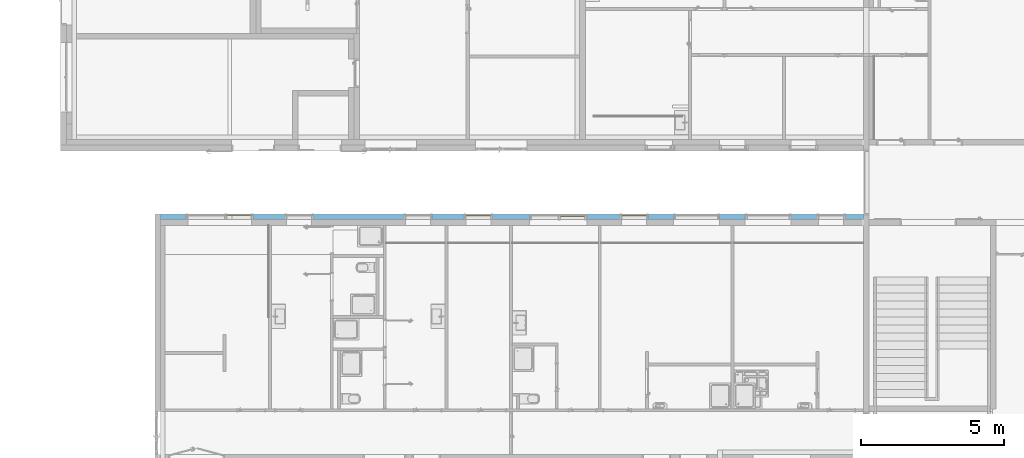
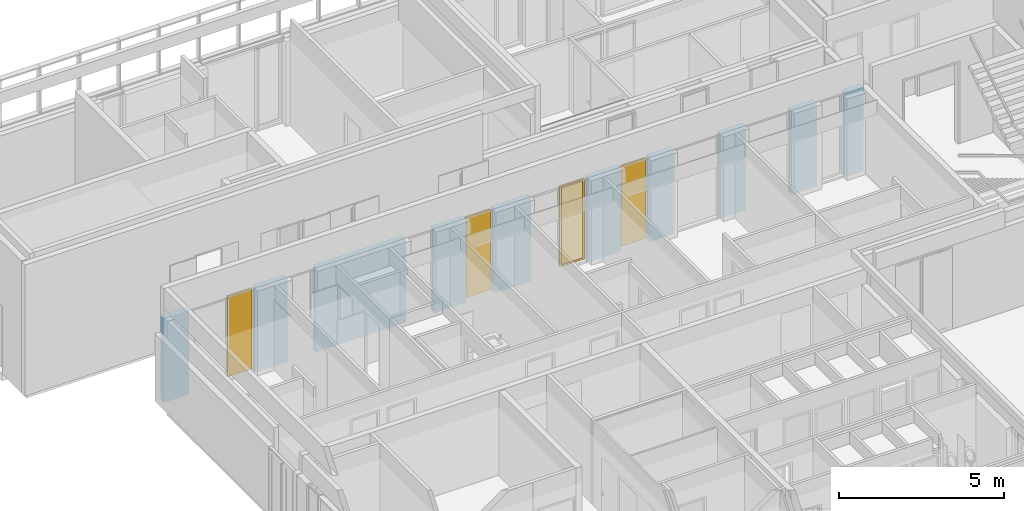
# One storey, part 208 of 240: 4 windows, 16 openings, plus 1 element that does not belong to this part.
"""IFC2X3 building model written with IfcOpenShell, lengths in centimetres."""

from ifc_helpers import new_model, entity, si_unit, converted_unit, derived_unit, direction, frame, frame_2d, origin, place, context, subcontext, project, spatial, rectangle, extrude, faceted_brep, source, transform, mapped, material, material_list, layer, layer_set, layer_usage, type_object, type_shapes, element, fill, save


model = new_model("IFC2X3")

# Units and contexts
model_context = context("Model", 3, precision=0.001, world=origin(), true_north=direction((6.12303176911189e-17, 1.0)))
body_context = subcontext(model_context, "Body", "Model", "MODEL_VIEW")
ifc_project = project(units=[si_unit("LENGTHUNIT", "METRE", prefix="CENTI"), si_unit("AREAUNIT", "SQUARE_METRE"), si_unit("VOLUMEUNIT", "CUBIC_METRE"), converted_unit("PLANEANGLEUNIT", "DEGREE", entity("IfcRatioMeasure", 0.0174532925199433), si_unit("PLANEANGLEUNIT", "RADIAN"), dimensions=[0, 0, 0, 0, 0, 0, 0]), si_unit("MASSUNIT", "GRAM", prefix="KILO"), derived_unit("MASSDENSITYUNIT", [(si_unit("MASSUNIT", "GRAM", prefix="KILO"), 1), (si_unit("LENGTHUNIT", "METRE"), -3)]), si_unit("TIMEUNIT", "SECOND"), si_unit("FREQUENCYUNIT", "HERTZ"), si_unit("THERMODYNAMICTEMPERATUREUNIT", "DEGREE_CELSIUS"), derived_unit("THERMALTRANSMITTANCEUNIT", [(si_unit("MASSUNIT", "GRAM", prefix="KILO"), 1), (si_unit("THERMODYNAMICTEMPERATUREUNIT", "KELVIN"), -1), (si_unit("TIMEUNIT", "SECOND"), -3)]), derived_unit("VOLUMETRICFLOWRATEUNIT", [(si_unit("LENGTHUNIT", "METRE"), 3), (si_unit("TIMEUNIT", "SECOND"), -1)]), si_unit("ELECTRICCURRENTUNIT", "AMPERE"), si_unit("ELECTRICVOLTAGEUNIT", "VOLT"), si_unit("POWERUNIT", "WATT"), si_unit("FORCEUNIT", "NEWTON", prefix="KILO"), si_unit("ILLUMINANCEUNIT", "LUX"), si_unit("LUMINOUSFLUXUNIT", "LUMEN"), si_unit("LUMINOUSINTENSITYUNIT", "CANDELA"), derived_unit("USERDEFINED", [(si_unit("MASSUNIT", "GRAM", prefix="KILO"), -1), (si_unit("LENGTHUNIT", "METRE"), -2), (si_unit("TIMEUNIT", "SECOND"), 3), (si_unit("LUMINOUSFLUXUNIT", "LUMEN"), 1)]), derived_unit("LINEARVELOCITYUNIT", [(si_unit("LENGTHUNIT", "METRE"), 1), (si_unit("TIMEUNIT", "SECOND"), -1)]), si_unit("PRESSUREUNIT", "PASCAL"), derived_unit("USERDEFINED", [(si_unit("LENGTHUNIT", "METRE"), -2), (si_unit("MASSUNIT", "GRAM", prefix="KILO"), 1), (si_unit("TIMEUNIT", "SECOND"), -2)])], contexts=[model_context])

# Site, building, storey
site_placement = place(None, frame((-2781.94577612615, 7442.24238424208, 0.0)))
site = spatial("IfcSite", under=ifc_project, at=site_placement, Name="Default", CompositionType="ELEMENT")
building_placement = place(site_placement, origin())
building = spatial("IfcBuilding", under=site, at=building_placement, CompositionType="ELEMENT")
storey_placement = place(building_placement, origin())
storey = spatial("IfcBuildingStorey", under=building, at=storey_placement, Name="N00 - COO", CompositionType="ELEMENT", Elevation=0.0)

# Wall, openings, windows
ifc_material_1 = material(Name="Aluminium bardage")
ifc_layer_1 = layer(ifc_material_1, 0.5)
ifc_material_2 = material(Name="01 - Lame d'air")
ifc_layer_2 = layer(ifc_material_2, 1.5)
ifc_material_3 = material(Name="00 - Isolant")
ifc_layer_3 = layer(ifc_material_3, 18.0)
ifc_layer_set = layer_set([ifc_layer_1, ifc_layer_2, ifc_layer_3], Name="Mur de base:04 - Parement - ITE 18cm + vide 2cm")
ifc_layer_usage = layer_usage(ifc_layer_set, "AXIS2", "NEGATIVE", 10.0)
wall_type = type_object("IfcWallType", Name="Mur de base:04 - Parement - ITE 18cm + vide 2cm", PredefinedType="STANDARD", material=ifc_layer_set)
wall_placement = place(building_placement, frame((-10881.6130476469, -1080.0, 0.0)))
wall = element("IfcWallStandardCase", 1, at=wall_placement, inside=storey, type_object=wall_type, material=ifc_layer_usage, Name="Mur de base:04 - Parement - ITE 18cm + vide 2cm", ObjectType="Mur de base:04 - Parement - ITE 18cm + vide 2cm", context=body_context, shape_type="SweptSolid", body=[
    extrude(rectangle(XDim=2452.0, YDim=20.0000000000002, at=frame_2d((1226.0, 6.83897383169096e-14), x_axis=(-1.0, 0.0))), origin(), (0.0, 0.0, 1.0), 311.0),
])
opening_1_placement = place(wall_placement, origin())
element("IfcOpeningElement", 2, at=opening_1_placement, cuts=wall, Name="Mur de base:04 - Parement - ITE 18cm + vide 2cm", ObjectType="Opening", context=body_context, shape_type="SweptSolid", body=[
    extrude(rectangle(XDim=310.999999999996, YDim=235.0, at=frame_2d((8.66862137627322e-13, 0.0), x_axis=(0.0, 1.0))), frame((206.231919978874, -25.2399999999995, 155.499999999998), z_axis=(0.0, 1.0, 0.0), x_axis=(-1.0, 0.0, 0.0)), (0.0, 0.0, 1.0), 50.48),
])
opening_2_placement = place(wall_placement, origin())
element("IfcOpeningElement", 3, at=opening_2_placement, cuts=wall, Name="Mur de base:04 - Parement - ITE 18cm + vide 2cm", ObjectType="Opening", context=body_context, shape_type="SweptSolid", body=[
    extrude(rectangle(XDim=312.5, YDim=160.0, at=frame_2d((-8.66862137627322e-13, 0.0), x_axis=(0.0, 1.0))), frame((2119.61316997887, -25.2399999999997, 156.25), z_axis=(0.0, 1.0, 0.0), x_axis=(-1.0, 0.0, 0.0)), (0.0, 0.0, 1.0), 50.48),
])
opening_3_placement = place(wall_placement, origin())
element("IfcOpeningElement", 4, at=opening_3_placement, cuts=wall, Name="Mur de base:04 - Parement - ITE 18cm + vide 2cm", ObjectType="Opening", context=body_context, shape_type="SweptSolid", body=[
    extrude(rectangle(XDim=312.5, YDim=160.0, at=frame_2d((-8.66862137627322e-13, 0.0), x_axis=(0.0, 1.0))), frame((1869.61316997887, -25.2399999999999, 156.25), z_axis=(0.0, 1.0, 0.0), x_axis=(-1.0, 0.0, 0.0)), (0.0, 0.0, 1.0), 50.48),
])
opening_4_placement = place(wall_placement, origin())
element("IfcOpeningElement", 5, at=opening_4_placement, cuts=wall, Name="Mur de base:04 - Parement - ITE 18cm + vide 2cm", ObjectType="Opening", context=body_context, shape_type="SweptSolid", body=[
    extrude(rectangle(XDim=312.5, YDim=200.000000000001, at=frame_2d((-8.66862137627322e-13, 0.0), x_axis=(0.0, 1.0))), frame((1387.11316997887, -25.2399999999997, 156.25), z_axis=(0.0, 1.0, 0.0), x_axis=(-1.0, 0.0, 0.0)), (0.0, 0.0, 1.0), 50.48),
])
opening_5_placement = place(wall_placement, origin())
element("IfcOpeningElement", 6, at=opening_5_placement, cuts=wall, Name="Mur de base:04 - Parement - ITE 18cm + vide 2cm", ObjectType="Opening", context=body_context, shape_type="SweptSolid", body=[
    extrude(rectangle(XDim=312.5, YDim=99.9999999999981, at=frame_2d((0.0, 0.0), x_axis=(0.0, 1.0))), frame((2339.61316997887, -25.2399999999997, 156.25), z_axis=(0.0, 1.0, 0.0), x_axis=(-1.0, 0.0, 0.0)), (0.0, 0.0, 1.0), 50.48),
])
opening_6_placement = place(wall_placement, origin())
element("IfcOpeningElement", 7, at=opening_6_placement, cuts=wall, Name="Mur de base:04 - Parement - ITE 18cm + vide 2cm", ObjectType="Opening", context=body_context, shape_type="SweptSolid", body=[
    extrude(rectangle(XDim=312.5, YDim=99.9999999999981, at=frame_2d((0.0, 0.0), x_axis=(0.0, 1.0))), frame((1652.11316997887, -25.2399999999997, 156.25), z_axis=(0.0, 1.0, 0.0), x_axis=(-1.0, 0.0, 0.0)), (0.0, 0.0, 1.0), 50.48),
])
opening_7_placement = place(wall_placement, origin())
element("IfcOpeningElement", 8, at=opening_7_placement, cuts=wall, Name="Mur de base:04 - Parement - ITE 18cm + vide 2cm", ObjectType="Opening", context=body_context, shape_type="SweptSolid", body=[
    extrude(rectangle(XDim=312.5, YDim=99.9999999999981, at=frame_2d((0.0, 0.0), x_axis=(0.0, 1.0))), frame((1108.61316997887, -25.2399999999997, 156.25), z_axis=(0.0, 1.0, 0.0), x_axis=(-1.0, 0.0, 0.0)), (0.0, 0.0, 1.0), 50.48),
])
opening_8_placement = place(wall_placement, origin())
element("IfcOpeningElement", 9, at=opening_8_placement, cuts=wall, Name="Mur de base:04 - Parement - ITE 18cm + vide 2cm", ObjectType="Opening", context=body_context, shape_type="SweptSolid", body=[
    extrude(rectangle(XDim=312.5, YDim=99.9999999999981, at=frame_2d((0.0, 0.0), x_axis=(0.0, 1.0))), frame((898.61316997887, -25.2399999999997, 156.25), z_axis=(0.0, 1.0, 0.0), x_axis=(-1.0, 0.0, 0.0)), (0.0, 0.0, 1.0), 50.48),
])
opening_9_placement = place(wall_placement, origin())
element("IfcOpeningElement", 10, at=opening_9_placement, cuts=wall, Name="Mur de base:04 - Parement - ITE 18cm + vide 2cm", ObjectType="Opening", context=body_context, shape_type="SweptSolid", body=[
    extrude(rectangle(XDim=312.5, YDim=99.9999999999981, at=frame_2d((0.0, 0.0), x_axis=(0.0, 1.0))), frame((483.613169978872, -25.2399999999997, 156.25), z_axis=(0.0, 1.0, 0.0), x_axis=(-1.0, 0.0, 0.0)), (0.0, 0.0, 1.0), 50.48),
])
opening_10_placement = place(wall_placement, frame((230.11316997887, -10.0, 6.5)))
opening_10 = element("IfcOpeningElement", 11, at=opening_10_placement, cuts=wall, Name="Ouvrant vitré:Ouvrant vitré (93cm) RDC:1", ObjectType="Opening", context=body_context, shape_type="SweptSolid", body=[
    extrude(rectangle(XDim=299.5, YDim=87.0000000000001, at=frame_2d((149.75, 43.5), x_axis=(1.0, 0.0))), frame((0.0, 0.0, 0.0), z_axis=(0.0, 1.0, 0.0), x_axis=(0.0, 0.0, 1.0)), (0.0, 0.0, 1.0), 20.0),
])
opening_11_placement = place(wall_placement, frame((440.113169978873, -10.0, 6.5)))
element("IfcOpeningElement", 12, at=opening_11_placement, cuts=wall, Name="Ouvrant vitré:Ouvrant vitré (93cm) RDC:1", ObjectType="Opening", context=body_context, shape_type="SweptSolid", body=[
    extrude(rectangle(XDim=299.5, YDim=87.0000000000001, at=frame_2d((149.75, 43.5), x_axis=(1.0, 0.0))), frame((0.0, 0.0, 0.0), z_axis=(0.0, 1.0, 0.0), x_axis=(0.0, 0.0, 1.0)), (0.0, 0.0, 1.0), 20.0),
])
opening_12_placement = place(wall_placement, frame((855.11316997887, -10.0, 6.5)))
element("IfcOpeningElement", 13, at=opening_12_placement, cuts=wall, Name="Ouvrant vitré:Ouvrant vitré (93cm) RDC:1", ObjectType="Opening", context=body_context, shape_type="SweptSolid", body=[
    extrude(rectangle(XDim=299.5, YDim=87.0000000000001, at=frame_2d((149.75, 43.5000000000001), x_axis=(1.0, 0.0))), frame((0.0, 0.0, 0.0), z_axis=(0.0, 1.0, 0.0), x_axis=(0.0, 0.0, 1.0)), (0.0, 0.0, 1.0), 20.0),
])
opening_13_placement = place(wall_placement, frame((1065.11316997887, -10.0, 6.5)))
opening_13 = element("IfcOpeningElement", 14, at=opening_13_placement, cuts=wall, Name="Ouvrant vitré:Ouvrant vitré (93cm) RDC:1", ObjectType="Opening", context=body_context, shape_type="SweptSolid", body=[
    extrude(rectangle(XDim=299.5, YDim=87.0000000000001, at=frame_2d((149.75, 43.5000000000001), x_axis=(1.0, 0.0))), frame((0.0, 0.0, 0.0), z_axis=(0.0, 1.0, 0.0), x_axis=(0.0, 0.0, 1.0)), (0.0, 0.0, 1.0), 20.0),
])
opening_14_placement = place(wall_placement, frame((1393.61316997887, -10.0, 6.5)))
opening_14 = element("IfcOpeningElement", 15, at=opening_14_placement, cuts=wall, Name="Ouvrant vitré:Ouvrant vitré (93cm) RDC:1", ObjectType="Opening", context=body_context, shape_type="SweptSolid", body=[
    extrude(rectangle(XDim=299.5, YDim=87.0000000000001, at=frame_2d((149.75, 43.5000000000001), x_axis=(1.0, 0.0))), frame((0.0, 0.0, 0.0), z_axis=(0.0, 1.0, 0.0), x_axis=(0.0, 0.0, 1.0)), (0.0, 0.0, 1.0), 20.0),
])
opening_15_placement = place(wall_placement, frame((1608.61316997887, -10.0, 6.5)))
opening_15 = element("IfcOpeningElement", 16, at=opening_15_placement, cuts=wall, Name="Ouvrant vitré:Ouvrant vitré (93cm) RDC:1", ObjectType="Opening", context=body_context, shape_type="SweptSolid", body=[
    extrude(rectangle(XDim=299.5, YDim=87.0000000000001, at=frame_2d((149.75, 43.5000000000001), x_axis=(1.0, 0.0))), frame((0.0, 0.0, 0.0), z_axis=(0.0, 1.0, 0.0), x_axis=(0.0, 0.0, 1.0)), (0.0, 0.0, 1.0), 20.0),
])
opening_16_placement = place(wall_placement, frame((2296.11316997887, -10.0, 6.5)))
element("IfcOpeningElement", 17, at=opening_16_placement, cuts=wall, Name="Ouvrant vitré:Ouvrant vitré (93cm) RDC:1", ObjectType="Opening", context=body_context, shape_type="SweptSolid", body=[
    extrude(rectangle(XDim=299.5, YDim=87.0000000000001, at=frame_2d((149.75, 43.5000000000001), x_axis=(1.0, 0.0))), frame((0.0, 0.0, 0.0), z_axis=(0.0, 1.0, 0.0), x_axis=(0.0, 0.0, 1.0)), (0.0, 0.0, 1.0), 20.0),
])
ifc_material_4 = material(Name="Verre")
ifc_material_5 = material(Name="Aluminium")
ifc_material_list_1 = material_list([ifc_material_4, ifc_material_5])
ifc_material_list_2 = material_list([ifc_material_4, ifc_material_5])
window_style_1 = type_object("IfcWindowStyle", Name="Ouvrant vitré (93cm) RDC", ConstructionType="NOTDEFINED", OperationType="NOTDEFINED", ParameterTakesPrecedence=False, Sizeable=False, material=ifc_material_list_2)
shared_shape_1 = source(origin(), body_context, "Body", "Brep", [
    faceted_brep([(80.4999999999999, 15.2499999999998, 293.0), (80.4999999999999, 15.2499999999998, 6.49999999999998), (6.5000000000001, 15.2500000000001, 6.49999999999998), (6.5000000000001, 15.2500000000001, 293.0), (80.4999999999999, 13.2499999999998, 293.0), (80.4999999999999, 13.2499999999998, 6.49999999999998), (6.50000000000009, 13.2500000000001, 6.49999999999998), (6.50000000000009, 13.2500000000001, 293.0)], [[[0, 1, 2, 3]], [[1, 0, 4, 5]], [[2, 1, 5, 6]], [[3, 2, 6, 7]], [[4, 7, 6, 5]], [[0, 3, 7, 4]]]),
    faceted_brep([(83.5, 16.5494664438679, 296.0), (83.5, 16.5494664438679, 3.50000000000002), (3.50000000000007, 16.5494664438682, 3.50000000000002), (3.50000000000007, 16.5494664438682, 296.0), (80.5, 16.5494664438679, 293.0), (6.50000000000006, 16.5494664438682, 293.0), (6.50000000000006, 16.5494664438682, 6.50000000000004), (80.5, 16.5494664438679, 6.50000000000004), (83.5, 13.0494664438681, 296.0), (83.5, 13.0494664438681, 3.50000000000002), (3.50000000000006, 13.0494664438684, 3.50000000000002), (3.50000000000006, 13.0494664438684, 296.0), (6.50000000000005, 13.0494664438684, 293.0), (6.50000000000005, 13.0494664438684, 6.50000000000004), (80.5, 13.0494664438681, 6.50000000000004), (80.5, 13.0494664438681, 293.0)], [[[0, 1, 2, 3], [4, 5, 6, 7]], [[1, 0, 8, 9]], [[2, 1, 9, 10]], [[3, 2, 10, 11]], [[6, 5, 12, 13]], [[7, 6, 13, 14]], [[4, 7, 14, 15]], [[15, 14, 13, 12], [8, 11, 10, 9]], [[0, 3, 11, 8]], [[5, 4, 15, 12]]], outer=[[True, False], [True], [True], [True], [True], [True], [True], [False, True], [True], [True]]),
    faceted_brep([(82.0, 16.5494664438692, 294.5), (82.0, 18.0494664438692, 294.5), (82.0, 18.0494664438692, 5.0), (82.0, 16.5494664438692, 5.0), (87.0, 18.0494664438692, 0.0), (0.0, 18.0494664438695, 0.0), (0.0, 18.0494664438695, 299.5), (87.0, 18.0494664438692, 299.5), (5.0, 18.0494664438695, 294.5), (5.0, 18.0494664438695, 5.0), (5.0, 16.5494664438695, 5.0), (5.0, 16.5494664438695, 294.5), (83.5, 16.5494664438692, 296.0), (3.50000000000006, 16.5494664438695, 296.0), (3.50000000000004, 16.5494664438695, 3.50000000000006), (83.5, 16.5494664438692, 3.50000000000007), (83.5, 13.0494664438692, 296.0), (83.5, 13.0494664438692, 3.50000000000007), (3.50000000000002, 13.0494664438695, 3.50000000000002), (3.50000000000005, 13.0494664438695, 296.0), (87.0, 13.0494664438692, 299.5), (0.0, 13.0494664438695, 299.5), (0.0, 13.0494664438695, 0.0), (87.0, 13.0494664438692, 0.0)], [[[0, 1, 2, 3]], [[4, 5, 6, 7], [1, 8, 9, 2]], [[3, 2, 9, 10]], [[3, 10, 11, 0], [12, 13, 14, 15]], [[16, 12, 15, 17]], [[17, 15, 14, 18]], [[17, 18, 19, 16], [20, 21, 22, 23]], [[7, 20, 23, 4]], [[4, 23, 22, 5]], [[10, 9, 8, 11]], [[18, 14, 13, 19]], [[5, 22, 21, 6]], [[11, 8, 1, 0]], [[19, 13, 12, 16]], [[6, 21, 20, 7]]], outer=[[True], [True, False], [True], [False, True], [True], [True], [False, True], [True], [True], [True], [True], [True], [True], [True], [True]]),
])
type_shapes(window_style_1, [shared_shape_1])
window_1_placement = place(opening_15_placement, origin())
window_1 = element("IfcWindow", 18, at=window_1_placement, inside=storey, type_object=window_style_1, material=ifc_material_list_1, Name="Ouvrant vitré:Ouvrant vitré (93cm) RDC", ObjectType="Ouvrant vitré:Ouvrant vitré (93cm) RDC", OverallHeight=299.5, OverallWidth=86.9999999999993, context=body_context, shape_type="MappedRepresentation", body=[
    mapped(shared_shape_1, transform((0.0, 0.0, 0.0), scale=1.0)),
])
fill(opening_15, window_1)
ifc_material_list_3 = material_list([ifc_material_4, ifc_material_5])
ifc_material_list_4 = material_list([ifc_material_4, ifc_material_5])
window_style_2 = type_object("IfcWindowStyle", Name="Ouvrant vitré (93cm) RDC", ConstructionType="NOTDEFINED", OperationType="NOTDEFINED", ParameterTakesPrecedence=False, Sizeable=False, material=ifc_material_list_4)
shared_shape_2 = source(origin(), body_context, "Body", "Brep", [
    faceted_brep([(80.4999999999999, 15.2499999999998, 293.0), (80.4999999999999, 15.2499999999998, 6.49999999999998), (6.5000000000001, 15.2500000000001, 6.49999999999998), (6.5000000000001, 15.2500000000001, 293.0), (80.4999999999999, 13.2499999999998, 293.0), (80.4999999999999, 13.2499999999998, 6.49999999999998), (6.50000000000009, 13.2500000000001, 6.49999999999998), (6.50000000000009, 13.2500000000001, 293.0)], [[[0, 1, 2, 3]], [[1, 0, 4, 5]], [[2, 1, 5, 6]], [[3, 2, 6, 7]], [[4, 7, 6, 5]], [[0, 3, 7, 4]]]),
    faceted_brep([(83.5, 16.7382143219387, 296.0), (83.5, 16.7382143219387, 3.50000000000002), (3.50000000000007, 16.738214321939, 3.50000000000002), (3.50000000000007, 16.738214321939, 296.0), (80.5, 16.7382143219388, 293.0), (6.50000000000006, 16.738214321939, 293.0), (6.50000000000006, 16.738214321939, 6.50000000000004), (80.5, 16.7382143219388, 6.50000000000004), (83.5, 13.2382143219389, 296.0), (83.5, 13.2382143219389, 3.50000000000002), (3.50000000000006, 13.2382143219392, 3.50000000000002), (3.50000000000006, 13.2382143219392, 296.0), (6.50000000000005, 13.2382143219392, 293.0), (6.50000000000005, 13.2382143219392, 6.50000000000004), (80.5, 13.2382143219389, 6.50000000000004), (80.5, 13.2382143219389, 293.0)], [[[0, 1, 2, 3], [4, 5, 6, 7]], [[1, 0, 8, 9]], [[2, 1, 9, 10]], [[3, 2, 10, 11]], [[6, 5, 12, 13]], [[7, 6, 13, 14]], [[4, 7, 14, 15]], [[15, 14, 13, 12], [8, 11, 10, 9]], [[0, 3, 11, 8]], [[5, 4, 15, 12]]], outer=[[True, False], [True], [True], [True], [True], [True], [True], [False, True], [True], [True]]),
    faceted_brep([(82.0, 16.73821432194, 294.5), (82.0, 18.2382143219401, 294.5), (82.0, 18.2382143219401, 5.0), (82.0, 16.73821432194, 5.0), (87.0, 18.23821432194, 0.0), (0.0, 18.2382143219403, 0.0), (0.0, 18.2382143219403, 299.5), (87.0, 18.23821432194, 299.5), (5.0, 18.2382143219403, 294.5), (5.0, 18.2382143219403, 5.0), (5.0, 16.7382143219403, 5.0), (5.0, 16.7382143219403, 294.5), (83.5, 16.73821432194, 296.0), (3.50000000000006, 16.7382143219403, 296.0), (3.50000000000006, 16.7382143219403, 3.50000000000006), (83.5, 16.73821432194, 3.50000000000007), (83.5, 13.2382143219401, 296.0), (83.5, 13.2382143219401, 3.50000000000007), (3.50000000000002, 13.2382143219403, 3.50000000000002), (3.50000000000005, 13.2382143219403, 296.0), (87.0, 13.23821432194, 299.5), (0.0, 13.2382143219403, 299.5), (0.0, 13.2382143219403, 0.0), (87.0, 13.23821432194, 0.0)], [[[0, 1, 2, 3]], [[4, 5, 6, 7], [1, 8, 9, 2]], [[3, 2, 9, 10]], [[3, 10, 11, 0], [12, 13, 14, 15]], [[16, 12, 15, 17]], [[17, 15, 14, 18]], [[17, 18, 19, 16], [20, 21, 22, 23]], [[7, 20, 23, 4]], [[4, 23, 22, 5]], [[10, 9, 8, 11]], [[18, 14, 13, 19]], [[5, 22, 21, 6]], [[11, 8, 1, 0]], [[19, 13, 12, 16]], [[6, 21, 20, 7]]], outer=[[True], [True, False], [True], [False, True], [True], [True], [False, True], [True], [True], [True], [True], [True], [True], [True], [True]]),
])
type_shapes(window_style_2, [shared_shape_2])
window_2_placement = place(opening_13_placement, origin())
window_2 = element("IfcWindow", 19, at=window_2_placement, inside=storey, type_object=window_style_2, material=ifc_material_list_3, Name="Ouvrant vitré:Ouvrant vitré (93cm) RDC", ObjectType="Ouvrant vitré:Ouvrant vitré (93cm) RDC", OverallHeight=299.5, OverallWidth=86.9999999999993, context=body_context, shape_type="MappedRepresentation", body=[
    mapped(shared_shape_2, transform((0.0, 0.0, 0.0), scale=1.0)),
])
fill(opening_13, window_2)
ifc_material_list_5 = material_list([ifc_material_4, ifc_material_5])
ifc_material_list_6 = material_list([ifc_material_4, ifc_material_5])
window_style_3 = type_object("IfcWindowStyle", Name="Ouvrant vitré (93cm) RDC", ConstructionType="NOTDEFINED", OperationType="NOTDEFINED", ParameterTakesPrecedence=False, Sizeable=False, material=ifc_material_list_6)
shared_shape_3 = source(origin(), body_context, "Body", "Brep", [
    faceted_brep([(80.4999999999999, 15.2499999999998, 293.0), (80.4999999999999, 15.2499999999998, 6.49999999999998), (6.5000000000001, 15.2500000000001, 6.49999999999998), (6.5000000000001, 15.2500000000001, 293.0), (80.4999999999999, 13.2499999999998, 293.0), (80.4999999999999, 13.2499999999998, 6.49999999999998), (6.50000000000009, 13.2500000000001, 6.49999999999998), (6.50000000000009, 13.2500000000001, 293.0)], [[[0, 1, 2, 3]], [[1, 0, 4, 5]], [[2, 1, 5, 6]], [[3, 2, 6, 7]], [[4, 7, 6, 5]], [[0, 3, 7, 4]]]),
    faceted_brep([(83.5, 15.2383906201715, 296.0), (83.5, 15.2383906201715, 3.50000000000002), (3.50000000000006, 15.2383906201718, 3.50000000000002), (3.50000000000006, 15.2383906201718, 296.0), (80.5, 15.2383906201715, 293.0), (6.50000000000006, 15.2383906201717, 293.0), (6.50000000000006, 15.2383906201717, 6.50000000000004), (80.5, 15.2383906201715, 6.50000000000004), (83.5, 11.7383906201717, 296.0), (83.5, 11.7383906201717, 3.50000000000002), (3.50000000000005, 11.7383906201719, 3.50000000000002), (3.50000000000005, 11.7383906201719, 296.0), (6.50000000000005, 11.7383906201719, 293.0), (6.50000000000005, 11.7383906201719, 6.50000000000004), (80.5, 11.7383906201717, 6.50000000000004), (80.5, 11.7383906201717, 293.0)], [[[0, 1, 2, 3], [4, 5, 6, 7]], [[1, 0, 8, 9]], [[2, 1, 9, 10]], [[3, 2, 10, 11]], [[6, 5, 12, 13]], [[7, 6, 13, 14]], [[4, 7, 14, 15]], [[15, 14, 13, 12], [8, 11, 10, 9]], [[0, 3, 11, 8]], [[5, 4, 15, 12]]], outer=[[True, False], [True], [True], [True], [True], [True], [True], [False, True], [True], [True]]),
    faceted_brep([(82.0, 15.2383906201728, 294.5), (82.0, 16.7383906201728, 294.5), (82.0, 16.7383906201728, 5.0), (82.0, 15.2383906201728, 5.0), (87.0, 16.7383906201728, 0.0), (0.0, 16.7383906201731, 0.0), (0.0, 16.7383906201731, 299.5), (87.0, 16.7383906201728, 299.5), (5.0, 16.7383906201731, 294.5), (5.0, 16.7383906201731, 5.0), (5.0, 15.238390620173, 5.0), (5.0, 15.238390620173, 294.5), (83.5, 15.2383906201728, 296.0), (3.50000000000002, 15.238390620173, 296.0), (3.50000000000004, 15.238390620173, 3.50000000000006), (83.5, 15.2383906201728, 3.50000000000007), (83.5, 11.7383906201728, 296.0), (83.5, 11.7383906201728, 3.50000000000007), (3.50000000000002, 11.7383906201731, 3.50000000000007), (3.50000000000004, 11.7383906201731, 296.0), (87.0, 11.7383906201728, 299.5), (0.0, 11.7383906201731, 299.5), (0.0, 11.7383906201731, 0.0), (87.0, 11.7383906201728, 0.0)], [[[0, 1, 2, 3]], [[4, 5, 6, 7], [1, 8, 9, 2]], [[3, 2, 9, 10]], [[3, 10, 11, 0], [12, 13, 14, 15]], [[16, 12, 15, 17]], [[17, 15, 14, 18]], [[17, 18, 19, 16], [20, 21, 22, 23]], [[7, 20, 23, 4]], [[4, 23, 22, 5]], [[10, 9, 8, 11]], [[18, 14, 13, 19]], [[5, 22, 21, 6]], [[11, 8, 1, 0]], [[19, 13, 12, 16]], [[6, 21, 20, 7]]], outer=[[True], [True, False], [True], [False, True], [True], [True], [False, True], [True], [True], [True], [True], [True], [True], [True], [True]]),
])
type_shapes(window_style_3, [shared_shape_3])
window_3_placement = place(opening_14_placement, origin())
window_3 = element("IfcWindow", 20, at=window_3_placement, inside=storey, type_object=window_style_3, material=ifc_material_list_5, Name="Ouvrant vitré:Ouvrant vitré (93cm) RDC", ObjectType="Ouvrant vitré:Ouvrant vitré (93cm) RDC", OverallHeight=299.5, OverallWidth=86.9999999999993, context=body_context, shape_type="MappedRepresentation", body=[
    mapped(shared_shape_3, transform((0.0, 0.0, 0.0), scale=1.0)),
])
fill(opening_14, window_3)
ifc_material_list_7 = material_list([ifc_material_4, ifc_material_5])
ifc_material_list_8 = material_list([ifc_material_4, ifc_material_5])
window_style_4 = type_object("IfcWindowStyle", Name="Ouvrant vitré (93cm) RDC", ConstructionType="NOTDEFINED", OperationType="NOTDEFINED", ParameterTakesPrecedence=False, Sizeable=False, material=ifc_material_list_8)
shared_shape_4 = source(origin(), body_context, "Body", "Brep", [
    faceted_brep([(80.4999999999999, 15.2499999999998, 293.0), (80.4999999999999, 15.2499999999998, 6.49999999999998), (6.5000000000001, 15.2500000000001, 6.49999999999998), (6.5000000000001, 15.2500000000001, 293.0), (80.4999999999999, 13.2499999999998, 293.0), (80.4999999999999, 13.2499999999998, 6.49999999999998), (6.50000000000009, 13.2500000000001, 6.49999999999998), (6.50000000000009, 13.2500000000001, 293.0)], [[[0, 1, 2, 3]], [[1, 0, 4, 5]], [[2, 1, 5, 6]], [[3, 2, 6, 7]], [[4, 7, 6, 5]], [[0, 3, 7, 4]]]),
    faceted_brep([(83.5, 16.4953939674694, 296.0), (83.5, 16.4953939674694, 3.50000000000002), (3.50000000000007, 16.4953939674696, 3.50000000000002), (3.50000000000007, 16.4953939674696, 296.0), (80.5, 16.4953939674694, 293.0), (6.50000000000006, 16.4953939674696, 293.0), (6.50000000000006, 16.4953939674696, 6.50000000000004), (80.5, 16.4953939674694, 6.50000000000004), (83.5, 12.9953939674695, 296.0), (83.5, 12.9953939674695, 3.50000000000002), (3.50000000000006, 12.9953939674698, 3.50000000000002), (3.50000000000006, 12.9953939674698, 296.0), (6.50000000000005, 12.9953939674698, 293.0), (6.50000000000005, 12.9953939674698, 6.50000000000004), (80.5, 12.9953939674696, 6.50000000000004), (80.5, 12.9953939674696, 293.0)], [[[0, 1, 2, 3], [4, 5, 6, 7]], [[1, 0, 8, 9]], [[2, 1, 9, 10]], [[3, 2, 10, 11]], [[6, 5, 12, 13]], [[7, 6, 13, 14]], [[4, 7, 14, 15]], [[15, 14, 13, 12], [8, 11, 10, 9]], [[0, 3, 11, 8]], [[5, 4, 15, 12]]], outer=[[True, False], [True], [True], [True], [True], [True], [True], [False, True], [True], [True]]),
    faceted_brep([(82.0, 16.4953939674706, 294.5), (82.0, 17.9953939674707, 294.5), (82.0, 17.9953939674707, 5.0), (82.0, 16.4953939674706, 5.0), (87.0, 17.9953939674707, 0.0), (0.0, 17.9953939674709, 0.0), (0.0, 17.9953939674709, 299.5), (87.0, 17.9953939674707, 299.5), (5.0, 17.9953939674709, 294.5), (5.0, 17.9953939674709, 5.0), (5.0, 16.4953939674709, 5.0), (5.0, 16.4953939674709, 294.5), (83.5, 16.4953939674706, 296.0), (3.50000000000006, 16.4953939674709, 296.0), (3.50000000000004, 16.4953939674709, 3.50000000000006), (83.5, 16.4953939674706, 3.50000000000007), (83.5, 12.9953939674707, 296.0), (83.5, 12.9953939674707, 3.50000000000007), (3.50000000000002, 12.9953939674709, 3.50000000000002), (3.50000000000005, 12.9953939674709, 296.0), (87.0, 12.9953939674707, 299.5), (0.0, 12.9953939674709, 299.5), (0.0, 12.9953939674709, 0.0), (87.0, 12.9953939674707, 0.0)], [[[0, 1, 2, 3]], [[4, 5, 6, 7], [1, 8, 9, 2]], [[3, 2, 9, 10]], [[3, 10, 11, 0], [12, 13, 14, 15]], [[16, 12, 15, 17]], [[17, 15, 14, 18]], [[17, 18, 19, 16], [20, 21, 22, 23]], [[7, 20, 23, 4]], [[4, 23, 22, 5]], [[10, 9, 8, 11]], [[18, 14, 13, 19]], [[5, 22, 21, 6]], [[11, 8, 1, 0]], [[19, 13, 12, 16]], [[6, 21, 20, 7]]], outer=[[True], [True, False], [True], [False, True], [True], [True], [False, True], [True], [True], [True], [True], [True], [True], [True], [True]]),
])
type_shapes(window_style_4, [shared_shape_4])
window_4_placement = place(opening_10_placement, origin())
window_4 = element("IfcWindow", 21, at=window_4_placement, inside=storey, type_object=window_style_4, material=ifc_material_list_7, Name="Ouvrant vitré:Ouvrant vitré (93cm) RDC", ObjectType="Ouvrant vitré:Ouvrant vitré (93cm) RDC", OverallHeight=299.5, OverallWidth=86.9999999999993, context=body_context, shape_type="MappedRepresentation", body=[
    mapped(shared_shape_4, transform((0.0, 0.0, 0.0), scale=1.0)),
])
fill(opening_10, window_4)

save(model, "model.ifc")
